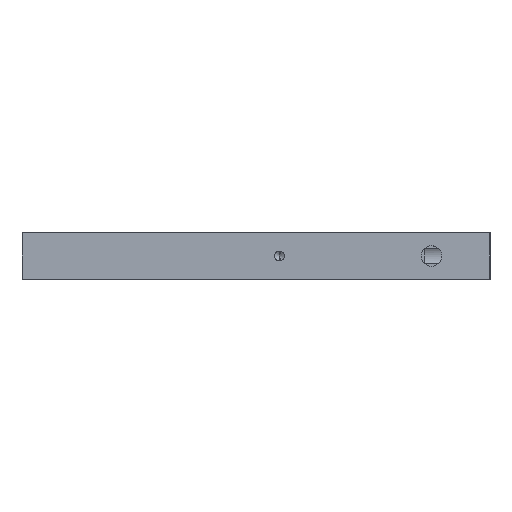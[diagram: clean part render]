
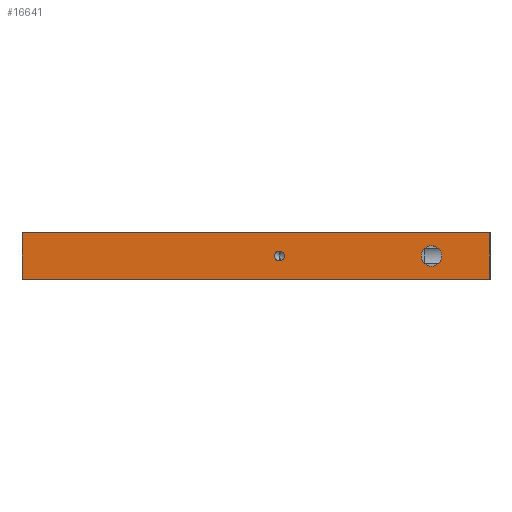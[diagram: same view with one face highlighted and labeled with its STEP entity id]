
A CAD part, left-side view. The second image highlights one B-rep face of the part: STEP entity #16641.
In plain terms, the highlighted planar face has unit normal (-1, 0, 0).
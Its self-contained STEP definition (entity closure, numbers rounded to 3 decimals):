
#1292 = FACE_OUTER_BOUND ( 'NONE', #41717, .T. ) ;
#1342 = FACE_BOUND ( 'NONE', #41713, .T. ) ;
#1358 = FACE_BOUND ( 'NONE', #41715, .T. ) ;
#2963 = AXIS2_PLACEMENT_3D ( 'NONE', #9356, #9353, #9363 ) ;
#8350 = CARTESIAN_POINT ( 'NONE',  ( -189.746, -52.956, -10. ) ) ;
#8351 = DIRECTION ( 'NONE',  ( -1., 0., 0. ) ) ;
#8352 = DIRECTION ( 'NONE',  ( 0., -1., 0. ) ) ;
#9137 = CIRCLE ( 'NONE', #50812, 4.4 ) ;
#9254 = CIRCLE ( 'NONE', #50829, 2.1 ) ;
#9353 = DIRECTION ( 'NONE',  ( -1., 0., 0. ) ) ;
#9356 = CARTESIAN_POINT ( 'NONE',  ( -189.746, 122.044, -20. ) ) ;
#9361 = PLANE ( 'NONE',  #2963 ) ;
#9363 = DIRECTION ( 'NONE',  ( 0., -1., 0. ) ) ;
#9866 = LINE ( 'NONE', #11459, #9894 ) ;
#9879 = CIRCLE ( 'NONE', #50924, 4.4 ) ;
#9881 = CIRCLE ( 'NONE', #50925, 2.1 ) ;
#9882 = LINE ( 'NONE', #11453, #9887 ) ;
#9885 = LINE ( 'NONE', #11463, #9890 ) ;
#9887 = VECTOR ( 'NONE', #11454, 1000. ) ;
#9888 = LINE ( 'NONE', #11458, #9898 ) ;
#9890 = VECTOR ( 'NONE', #11464, 1000. ) ;
#9894 = VECTOR ( 'NONE', #11465, 1000. ) ;
#9898 = VECTOR ( 'NONE', #11466, 1000. ) ;
#10928 = CARTESIAN_POINT ( 'NONE',  ( -189.746, 12.044, -10. ) ) ;
#10929 = DIRECTION ( 'NONE',  ( -1., 0., 0. ) ) ;
#10930 = DIRECTION ( 'NONE',  ( 0., -1., 0. ) ) ;
#11453 = CARTESIAN_POINT ( 'NONE',  ( -189.746, 122.044, 0. ) ) ;
#11454 = DIRECTION ( 'NONE',  ( 0., -1., 0. ) ) ;
#11455 = CARTESIAN_POINT ( 'NONE',  ( -189.746, -52.956, -10. ) ) ;
#11456 = DIRECTION ( 'NONE',  ( -1., 0., 0. ) ) ;
#11457 = DIRECTION ( 'NONE',  ( 0., -1., 0. ) ) ;
#11458 = CARTESIAN_POINT ( 'NONE',  ( -189.746, -77.956, -20. ) ) ;
#11459 = CARTESIAN_POINT ( 'NONE',  ( -189.746, 122.044, -20. ) ) ;
#11460 = CARTESIAN_POINT ( 'NONE',  ( -189.746, 12.044, -10. ) ) ;
#11461 = DIRECTION ( 'NONE',  ( -1., 0., 0. ) ) ;
#11462 = DIRECTION ( 'NONE',  ( 0., -1., 0. ) ) ;
#11463 = CARTESIAN_POINT ( 'NONE',  ( -189.746, 122.044, -20. ) ) ;
#11464 = DIRECTION ( 'NONE',  ( 0., 0., 1. ) ) ;
#11465 = DIRECTION ( 'NONE',  ( 0., -1., 0. ) ) ;
#11466 = DIRECTION ( 'NONE',  ( 0., 0., 1. ) ) ;
#16641 = ADVANCED_FACE ( 'NONE', ( #1342, #1358, #1292 ), #9361, .T. ) ;
#31003 = VERTEX_POINT ( 'NONE', #67901 ) ;
#31004 = VERTEX_POINT ( 'NONE', #67903 ) ;
#31045 = VERTEX_POINT ( 'NONE', #67985 ) ;
#31046 = VERTEX_POINT ( 'NONE', #67987 ) ;
#31202 = VERTEX_POINT ( 'NONE', #68291 ) ;
#31207 = VERTEX_POINT ( 'NONE', #68300 ) ;
#31209 = VERTEX_POINT ( 'NONE', #68304 ) ;
#31212 = VERTEX_POINT ( 'NONE', #68309 ) ;
#37774 = ORIENTED_EDGE ( 'NONE', *, *, #39540, .F. ) ;
#37776 = ORIENTED_EDGE ( 'NONE', *, *, #39282, .F. ) ;
#37779 = ORIENTED_EDGE ( 'NONE', *, *, #39541, .F. ) ;
#37782 = ORIENTED_EDGE ( 'NONE', *, *, #39328, .F. ) ;
#37785 = ORIENTED_EDGE ( 'NONE', *, *, #39542, .F. ) ;
#37788 = ORIENTED_EDGE ( 'NONE', *, *, #39543, .F. ) ;
#37791 = ORIENTED_EDGE ( 'NONE', *, *, #39544, .T. ) ;
#37793 = ORIENTED_EDGE ( 'NONE', *, *, #39545, .T. ) ;
#39282 = EDGE_CURVE ( 'NONE', #31003, #31004, #9137, .T. ) ;
#39328 = EDGE_CURVE ( 'NONE', #31045, #31046, #9254, .T. ) ;
#39540 = EDGE_CURVE ( 'NONE', #31004, #31003, #9879, .T. ) ;
#39541 = EDGE_CURVE ( 'NONE', #31046, #31045, #9881, .T. ) ;
#39542 = EDGE_CURVE ( 'NONE', #31207, #31209, #9882, .T. ) ;
#39543 = EDGE_CURVE ( 'NONE', #31202, #31207, #9885, .T. ) ;
#39544 = EDGE_CURVE ( 'NONE', #31202, #31212, #9866, .T. ) ;
#39545 = EDGE_CURVE ( 'NONE', #31212, #31209, #9888, .T. ) ;
#41713 = EDGE_LOOP ( 'NONE', ( #37774, #37776 ) ) ;
#41715 = EDGE_LOOP ( 'NONE', ( #37779, #37782 ) ) ;
#41717 = EDGE_LOOP ( 'NONE', ( #37785, #37788, #37791, #37793 ) ) ;
#50812 = AXIS2_PLACEMENT_3D ( 'NONE', #8350, #8351, #8352 ) ;
#50829 = AXIS2_PLACEMENT_3D ( 'NONE', #10928, #10929, #10930 ) ;
#50924 = AXIS2_PLACEMENT_3D ( 'NONE', #11455, #11456, #11457 ) ;
#50925 = AXIS2_PLACEMENT_3D ( 'NONE', #11460, #11461, #11462 ) ;
#67901 = CARTESIAN_POINT ( 'NONE',  ( -189.746, -48.556, -10. ) ) ;
#67903 = CARTESIAN_POINT ( 'NONE',  ( -189.746, -57.356, -10. ) ) ;
#67985 = CARTESIAN_POINT ( 'NONE',  ( -189.746, 12.044, -12.1 ) ) ;
#67987 = CARTESIAN_POINT ( 'NONE',  ( -189.746, 12.044, -7.9 ) ) ;
#68291 = CARTESIAN_POINT ( 'NONE',  ( -189.746, 122.044, -20. ) ) ;
#68300 = CARTESIAN_POINT ( 'NONE',  ( -189.746, 122.044, 0. ) ) ;
#68304 = CARTESIAN_POINT ( 'NONE',  ( -189.746, -77.956, 0. ) ) ;
#68309 = CARTESIAN_POINT ( 'NONE',  ( -189.746, -77.956, -20. ) ) ;
